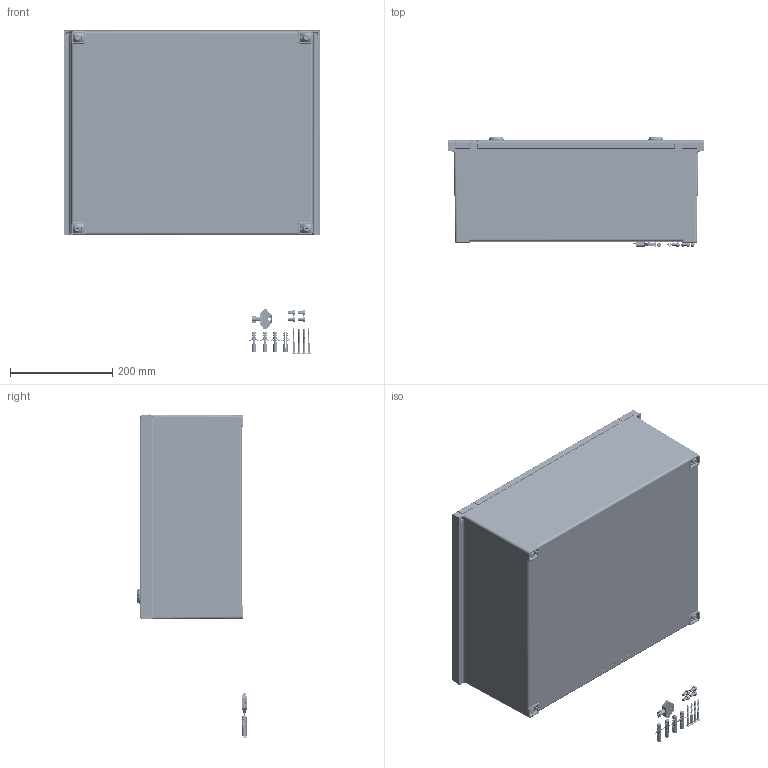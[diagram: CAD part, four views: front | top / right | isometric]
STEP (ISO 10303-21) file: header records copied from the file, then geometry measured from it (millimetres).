
FILE_DESCRIPTION(/* description */ (''),/* implementation_level */ '2;1');
FILE_NAME(/* name */ 'C:\Users\ahermoni\Desktop\42154200_PS 542.stp',/* time_stamp */ '2019-09-12T13:13:29+02:00',/* author */ ('ahermoni'),/* organization */ ('Fa. Bopla'),/* preprocessor_version */ 'ST-DEVELOPER v17.2',/* originating_system */ 'Autodesk Inventor 2019',/* authorisation */ '');
FILE_SCHEMA (('AUTOMOTIVE_DESIGN { 1 0 10303 214 3 1 1 }'));
Products named in the file (17): Polysafe PS 542; Unterteil 1; Oberteil; Tür 1; Scheibe; Schloss; Mutter; Halter; Schraube4; Rahmen; Zubehör; Schraube2; Dübel; Schlüssel; Schraube1; Achse; Gewindeeinsatz M6x8
Assembly tree (36 placements, depth 3):
  Polysafe PS 542
    Unterteil 1
    Oberteil
      Tür 1
      Scheibe  x2
      Schloss  x2
      Mutter  x2
      Halter  x2
      Schraube4  x2
      Rahmen
    Zubehör
      Schraube2  x4
      Dübel  x4
      Schlüssel
      Schraube1  x4
    Achse  x2
    Gewindeeinsatz M6x8  x6
Bounding box: 500 x 215.9 x 630.4 mm (x, y, z)
Volume: 2707723.4 mm3; surface area: 1811055 mm2
Topology: 42 solids, 56 shells, 4999 faces, 12843 edges, 8081 vertices
Faces by surface type: cylinder 1536, plane 1411, bspline 1306, cone 376, torus 248, sphere 122
Full cylindrical faces by diameter (mm): 2 x2, 2.62 x56, 3 x30, 3.7 x2, 4 x8, 4.2 x4, 4.5 x6, 5 x10, 5.4 x4, 6 x13, 6.55 x4, 7 x4, 7.3 x18, 8 x4, 8.5 x2, 9 x1, 10 x12, 10.2 x2, 12 x6, 14 x2, 14.2 x2, 18.5 x2, 19.8 x2, 21 x2, 22 x4, 23 x2, 27 x2, 29 x4
Entity records: 203200 total; most frequent: CARTESIAN_POINT 122624, ORIENTED_EDGE 17429, DIRECTION 15866, EDGE_CURVE 8720, AXIS2_PLACEMENT_3D 6135, VERTEX_POINT 5521, EDGE_LOOP 3855, LINE 3596
